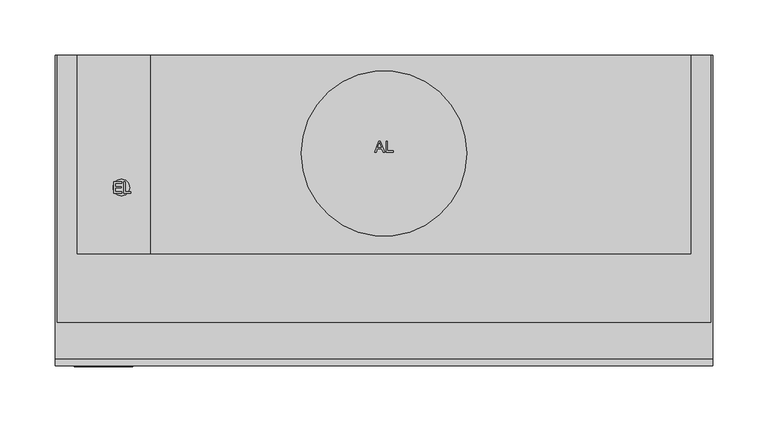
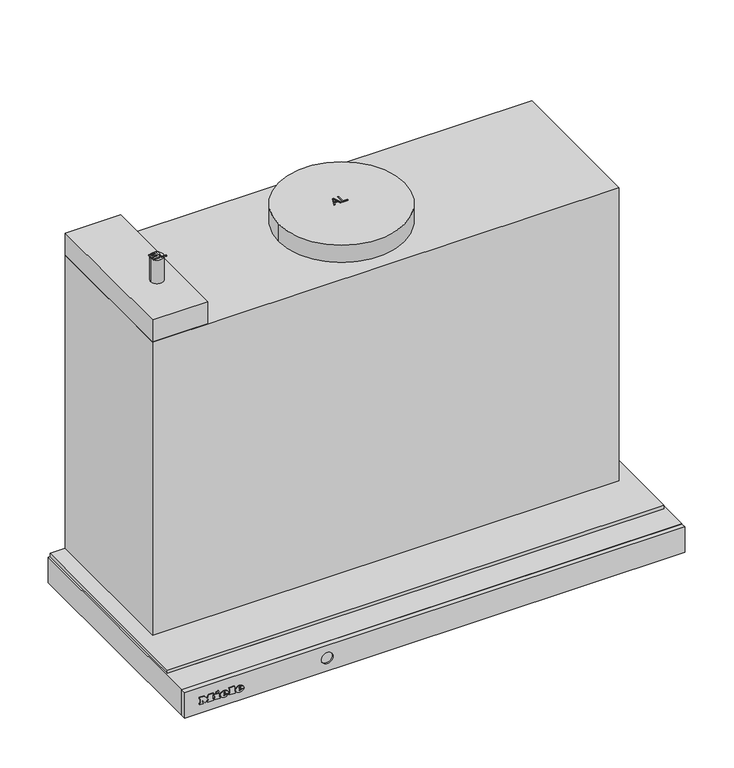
"""IFC4 building model written with IfcOpenShell, lengths in millimetres: proxy geometry, 11862200_D_DAS4630_OBSW : 28S4630B_D_11862200_DAS4630_OBSW."""

from ifc_helpers import new_model, si_unit, point, frame, frame_2d, origin, origin_with_axes, place, context, project, spatial, polyline, circle_curve, ellipse_curve, trimmed, segment, composite_curve, outline, extrude, faceted_brep, source, transform, mapped, element, save
from ifc_brep_helpers import plane_surface, cylinder_surface, revolved_surface, extruded_surface, advanced_brep


def specialty_equipment_42d7a28d(model_context):
    return source(origin(), model_context, "Body", "SolidModel", [
        advanced_brep(
        [(-233.4590019, -282.1878927, -18.7681017), (-233.4590019, -282.1878927, -17.8894017), (-227.6387019, -282.1878927, -17.8894017), (-237.7655019, -282.1878927, -17.8894017), (-235.3730019, -282.1878927, -20.8300017), (-227.7866019, -282.1878927, -18.7681017), (-230.4140019, -282.1878927, -18.7681017), (-232.4846019, -282.1878927, -19.7425017), (-233.4590019, -282.1878927, -16.7758017), (-233.4590019, -282.1878927, -15.8275017), (-231.9713019, -282.1878927, -15.8275017), (-231.9713019, -282.1878927, -16.7758017), (-233.4590019, -281.1878927, -18.7681017), (-232.4846019, -281.1878927, -19.7425017), (-230.4140019, -281.1878927, -18.7681017), (-227.7866019, -281.1878927, -18.7681017), (-235.3730019, -281.1878927, -20.8300017), (-237.7655019, -281.1878927, -17.8894017), (-227.6387019, -281.1878927, -17.8894017), (-233.4590019, -281.1878927, -17.8894017), (-233.4590019, -281.1878927, -16.7758017), (-231.9713019, -281.1878927, -16.7758017), (-231.9713019, -281.1878927, -15.8275017), (-233.4590019, -281.1878927, -15.8275017)],
        [
            (0, 1),
            (1, 2),
            (2, 3, ellipse_curve(frame((-232.7021019, -282.1878927, -17.8894017), z_axis=(0.0, -1.0, 0.0), x_axis=(-1.0, 0.0, 0.0)), 5.0634, 4.1847)),
            (3, 4, circle_curve(frame((-234.3985544, -282.1878927, -17.5936017), z_axis=(0.0, -1.0, 0.0), x_axis=(0.0, 0.0, -1.0)), 3.3799161)),
            (4, 5, circle_curve(frame((-232.8034638, -282.1878927, -15.2968017), z_axis=(0.0, -1.0, 0.0), x_axis=(0.0, 0.0, -1.0)), 6.1007236)),
            (5, 6),
            (6, 7, circle_curve(frame((-232.0593254, -282.1878927, -17.9590017), z_axis=(0.0, 1.0, 0.0), x_axis=(0.0, 0.0, -1.0)), 1.8335027)),
            (7, 0, circle_curve(frame((-232.4846019, -282.1878927, -18.7681017), z_axis=(0.0, 1.0, 0.0), x_axis=(0.0, 0.0, -1.0)), 0.9744)),
            (8, 9),
            (9, 10, circle_curve(frame((-232.7151519, -282.1878927, -15.8275017), z_axis=(0.0, 1.0, 0.0), x_axis=(0.0, 0.0, -1.0)), 0.74385)),
            (10, 11),
            (11, 8),
            (12, 13, circle_curve(frame((-232.4846019, -281.1878927, -18.7681017), z_axis=(0.0, -1.0, 0.0), x_axis=(0.0, 0.0, -1.0)), 0.9744)),
            (13, 14, circle_curve(frame((-232.0593254, -281.1878927, -17.9590017), z_axis=(0.0, -1.0, 0.0), x_axis=(0.0, 0.0, -1.0)), 1.8335027)),
            (14, 15),
            (15, 16, circle_curve(frame((-232.8034638, -281.1878927, -15.2968017), z_axis=(0.0, 1.0, 0.0), x_axis=(0.0, 0.0, -1.0)), 6.1007236)),
            (16, 17, circle_curve(frame((-234.3985544, -281.1878927, -17.5936017), z_axis=(0.0, 1.0, 0.0), x_axis=(0.0, 0.0, -1.0)), 3.3799161)),
            (17, 18, ellipse_curve(frame((-232.7021019, -281.1878927, -17.8894017), z_axis=(0.0, 1.0, 0.0), x_axis=(-1.0, 0.0, 0.0)), 5.0634, 4.1847)),
            (18, 19),
            (19, 12),
            (20, 21),
            (21, 22),
            (22, 23, circle_curve(frame((-232.7151519, -281.1878927, -15.8275017), z_axis=(0.0, -1.0, 0.0), x_axis=(0.0, 0.0, -1.0)), 0.74385)),
            (23, 20),
            (0, 12),
            (19, 1),
            (18, 2),
            (5, 15),
            (14, 6),
            (17, 3),
            (13, 7),
            (16, 4),
            (8, 20),
            (23, 9),
            (22, 10),
            (21, 11),
        ],
        [
            plane_surface(frame((-233.4590019, -282.1878927, -17.8894017), z_axis=(0.0, -1.0, 0.0), x_axis=(0.0, 0.0, 1.0))),
            plane_surface(frame((-233.4590019, -281.1878927, -17.8894017), z_axis=(0.0, 1.0, 0.0), x_axis=(0.0, 0.0, -1.0))),
            plane_surface(frame((-233.4590019, -282.1878927, -18.7681017), z_axis=(1.0, 0.0, 0.0), x_axis=(0.0, 1.0, 0.0))),
            plane_surface(frame((-233.4590019, -282.1878927, -17.8894017), z_axis=(0.0, 0.0, -1.0), x_axis=(0.0, 1.0, 0.0))),
            plane_surface(frame((-227.7866019, -282.1878927, -18.7681017), z_axis=(0.0, 0.0, 1.0), x_axis=(0.0, 1.0, 0.0))),
            extruded_surface(trimmed(ellipse_curve(frame((-232.7021019, -280.1878927, -17.8894017), z_axis=(0.0, -1.0, 0.0), x_axis=(-1.0, 0.0, 0.0)), 5.0634, 4.1847), [point((-227.6387019, -280.1878927, -17.8894017))], [point((-237.7655019, -280.1878927, -17.8894017))], True, "CARTESIAN"), (0.0, -1.0, 0.0), 1.0),
            revolved_surface(polyline([(-232.0593254, -281.1878927, -19.792504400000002), (-232.0593254, -282.1878927, -19.792504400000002)]), (-232.0593254, -281.1878927, -17.9590017), (0.0, 1.0, 0.0)),
            revolved_surface(polyline([(-232.4846019, -281.1878927, -19.7425017), (-232.4846019, -282.1878927, -19.7425017)]), (-232.4846019, -281.1878927, -18.7681017), (0.0, 1.0, 0.0)),
            cylinder_surface(frame((-234.3985544, -281.1878927, -17.5936017), z_axis=(0.0, -1.0, 0.0), x_axis=(0.0, 0.0, -1.0)), 3.3799161),
            cylinder_surface(frame((-232.8034638, -281.1878927, -15.2968017), z_axis=(0.0, -1.0, 0.0), x_axis=(0.0, 0.0, -1.0)), 6.1007236),
            plane_surface(frame((-233.4590019, -282.1878927, -16.7758017), z_axis=(1.0, 0.0, 0.0), x_axis=(0.0, 1.0, 0.0))),
            revolved_surface(polyline([(-232.7151519, -281.1878927, -16.571351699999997), (-232.7151519, -282.1878927, -16.571351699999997)]), (-232.7151519, -281.1878927, -15.8275017), (0.0, 1.0, 0.0)),
            plane_surface(frame((-231.9713019, -282.1878927, -15.8275017), z_axis=(-1.0, 0.0, 0.0), x_axis=(0.0, 1.0, 0.0))),
            plane_surface(frame((-231.9713019, -282.1878927, -16.7758017), z_axis=(0.0, 0.0, 1.0), x_axis=(0.0, 1.0, 0.0))),
        ],
        [
            (0, [[1, 2, 3, 4, 5, 6, 7, 8], [9, 10, 11, 12]]),
            (1, [[13, 14, 15, 16, 17, 18, 19, 20], [21, 22, 23, 24]]),
            (2, [[-1, 25, -20, 26]]),
            (3, [[-2, -26, -19, 27]]),
            (4, [[-6, 28, -15, 29]]),
            (5, [[-3, -27, -18, 30]]),
            (6, [[-7, -29, -14, 31]]),
            (7, [[-8, -31, -13, -25]]),
            (8, [[-4, -30, -17, 32]]),
            (9, [[-5, -32, -16, -28]]),
            (10, [[-9, 33, -24, 34]]),
            (11, [[-10, -34, -23, 35]]),
            (12, [[-11, -35, -22, 36]]),
            (13, [[-12, -36, -21, -33]]),
        ],
    ),
        advanced_brep(
        [(-251.6159019, -282.1878927, -18.7681017), (-251.6159019, -282.1878927, -17.8894017), (-245.7956019, -282.1878927, -17.8894017), (-255.9224019, -282.1878927, -17.8894017), (-253.5299019, -282.1878927, -20.8300017), (-245.9435019, -282.1878927, -18.7681017), (-248.5709019, -282.1878927, -18.7681017), (-250.6415019, -282.1878927, -19.7425017), (-251.6159019, -282.1878927, -16.7758017), (-251.6159019, -282.1878927, -15.8275017), (-250.1282019, -282.1878927, -15.8275017), (-250.1282019, -282.1878927, -16.7758017), (-251.6159019, -281.1878927, -18.7681017), (-250.6415019, -281.1878927, -19.7425017), (-248.5709019, -281.1878927, -18.7681017), (-245.9435019, -281.1878927, -18.7681017), (-253.5299019, -281.1878927, -20.8300017), (-255.9224019, -281.1878927, -17.8894017), (-245.7956019, -281.1878927, -17.8894017), (-251.6159019, -281.1878927, -17.8894017), (-251.6159019, -281.1878927, -16.7758017), (-250.1282019, -281.1878927, -16.7758017), (-250.1282019, -281.1878927, -15.8275017), (-251.6159019, -281.1878927, -15.8275017)],
        [
            (0, 1),
            (1, 2),
            (2, 3, ellipse_curve(frame((-250.8590019, -282.1878927, -17.8894017), z_axis=(0.0, -1.0, 0.0), x_axis=(-1.0, 0.0, 0.0)), 5.0634, 4.1847)),
            (3, 4, circle_curve(frame((-252.5554544, -282.1878927, -17.5936017), z_axis=(0.0, -1.0, 0.0), x_axis=(0.0, 0.0, -1.0)), 3.3799161)),
            (4, 5, circle_curve(frame((-250.9603638, -282.1878927, -15.2968017), z_axis=(0.0, -1.0, 0.0), x_axis=(0.0, 0.0, -1.0)), 6.1007236)),
            (5, 6),
            (6, 7, circle_curve(frame((-250.2162254, -282.1878927, -17.9590017), z_axis=(0.0, 1.0, 0.0), x_axis=(0.0, 0.0, -1.0)), 1.8335027)),
            (7, 0, circle_curve(frame((-250.6415019, -282.1878927, -18.7681017), z_axis=(0.0, 1.0, 0.0), x_axis=(0.0, 0.0, -1.0)), 0.9744)),
            (8, 9),
            (9, 10, circle_curve(frame((-250.8720519, -282.1878927, -15.8275017), z_axis=(0.0, 1.0, 0.0), x_axis=(0.0, 0.0, -1.0)), 0.74385)),
            (10, 11),
            (11, 8),
            (12, 13, circle_curve(frame((-250.6415019, -281.1878927, -18.7681017), z_axis=(0.0, -1.0, 0.0), x_axis=(0.0, 0.0, -1.0)), 0.9744)),
            (13, 14, circle_curve(frame((-250.2162254, -281.1878927, -17.9590017), z_axis=(0.0, -1.0, 0.0), x_axis=(0.0, 0.0, -1.0)), 1.8335027)),
            (14, 15),
            (15, 16, circle_curve(frame((-250.9603638, -281.1878927, -15.2968017), z_axis=(0.0, 1.0, 0.0), x_axis=(0.0, 0.0, -1.0)), 6.1007236)),
            (16, 17, circle_curve(frame((-252.5554544, -281.1878927, -17.5936017), z_axis=(0.0, 1.0, 0.0), x_axis=(0.0, 0.0, -1.0)), 3.3799161)),
            (17, 18, ellipse_curve(frame((-250.8590019, -281.1878927, -17.8894017), z_axis=(0.0, 1.0, 0.0), x_axis=(-1.0, 0.0, 0.0)), 5.0634, 4.1847)),
            (18, 19),
            (19, 12),
            (20, 21),
            (21, 22),
            (22, 23, circle_curve(frame((-250.8720519, -281.1878927, -15.8275017), z_axis=(0.0, -1.0, 0.0), x_axis=(0.0, 0.0, -1.0)), 0.74385)),
            (23, 20),
            (0, 12),
            (19, 1),
            (18, 2),
            (5, 15),
            (14, 6),
            (17, 3),
            (13, 7),
            (16, 4),
            (8, 20),
            (23, 9),
            (22, 10),
            (21, 11),
        ],
        [
            plane_surface(frame((-251.6159019, -282.1878927, -17.8894017), z_axis=(0.0, -1.0, 0.0), x_axis=(0.0, 0.0, 1.0))),
            plane_surface(frame((-251.6159019, -281.1878927, -17.8894017), z_axis=(0.0, 1.0, 0.0), x_axis=(0.0, 0.0, -1.0))),
            plane_surface(frame((-251.6159019, -282.1878927, -18.7681017), z_axis=(1.0, 0.0, 0.0), x_axis=(0.0, 1.0, 0.0))),
            plane_surface(frame((-251.6159019, -282.1878927, -17.8894017), z_axis=(0.0, 0.0, -1.0), x_axis=(0.0, 1.0, 0.0))),
            plane_surface(frame((-245.9435019, -282.1878927, -18.7681017), z_axis=(0.0, 0.0, 1.0), x_axis=(0.0, 1.0, 0.0))),
            extruded_surface(trimmed(ellipse_curve(frame((-250.8590019, -280.1878927, -17.8894017), z_axis=(0.0, -1.0, 0.0), x_axis=(-1.0, 0.0, 0.0)), 5.0634, 4.1847), [point((-245.7956019, -280.1878927, -17.8894017))], [point((-255.9224019, -280.1878927, -17.8894017))], True, "CARTESIAN"), (0.0, -1.0, 0.0), 1.0),
            revolved_surface(polyline([(-250.2162254, -281.1878927, -19.792504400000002), (-250.2162254, -282.1878927, -19.792504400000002)]), (-250.2162254, -281.1878927, -17.9590017), (0.0, 1.0, 0.0)),
            revolved_surface(polyline([(-250.6415019, -281.1878927, -19.7425017), (-250.6415019, -282.1878927, -19.7425017)]), (-250.6415019, -281.1878927, -18.7681017), (0.0, 1.0, 0.0)),
            cylinder_surface(frame((-252.5554544, -281.1878927, -17.5936017), z_axis=(0.0, -1.0, 0.0), x_axis=(0.0, 0.0, -1.0)), 3.3799161),
            cylinder_surface(frame((-250.9603638, -281.1878927, -15.2968017), z_axis=(0.0, -1.0, 0.0), x_axis=(0.0, 0.0, -1.0)), 6.1007236),
            plane_surface(frame((-251.6159019, -282.1878927, -16.7758017), z_axis=(1.0, 0.0, 0.0), x_axis=(0.0, 1.0, 0.0))),
            revolved_surface(polyline([(-250.8720519, -281.1878927, -16.571351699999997), (-250.8720519, -282.1878927, -16.571351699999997)]), (-250.8720519, -281.1878927, -15.8275017), (0.0, 1.0, 0.0)),
            plane_surface(frame((-250.1282019, -282.1878927, -15.8275017), z_axis=(-1.0, 0.0, 0.0), x_axis=(0.0, 1.0, 0.0))),
            plane_surface(frame((-250.1282019, -282.1878927, -16.7758017), z_axis=(0.0, 0.0, 1.0), x_axis=(0.0, 1.0, 0.0))),
        ],
        [
            (0, [[1, 2, 3, 4, 5, 6, 7, 8], [9, 10, 11, 12]]),
            (1, [[13, 14, 15, 16, 17, 18, 19, 20], [21, 22, 23, 24]]),
            (2, [[-1, 25, -20, 26]]),
            (3, [[-2, -26, -19, 27]]),
            (4, [[-6, 28, -15, 29]]),
            (5, [[-3, -27, -18, 30]]),
            (6, [[-7, -29, -14, 31]]),
            (7, [[-8, -31, -13, -25]]),
            (8, [[-4, -30, -17, 32]]),
            (9, [[-5, -32, -16, -28]]),
            (10, [[-9, 33, -24, 34]]),
            (11, [[-10, -34, -23, 35]]),
            (12, [[-11, -35, -22, 36]]),
            (13, [[-12, -36, -21, -33]]),
        ],
    ),
        extrude(outline(polyline([(-12.6433017, -261.1250019), (-14.0527017, -260.4638019), (-12.6781017, -257.5145019), (-11.2687017, -258.1670019), (-12.6433017, -261.1250019)])), frame((0.0, -282.1878927, 0.0), z_axis=(0.0, 1.0, 0.0), x_axis=(0.0, 0.0, 1.0)), (0.0, 0.0, 1.0), 1.0),
        extrude(outline(polyline([(-14.2441017, -263.2739019), (-15.8014017, -263.2739019), (-15.8014017, -262.2386019), (-19.3684017, -262.2386019), (-19.3684017, -263.2739019), (-20.8300017, -263.2739019), (-20.8300017, -256.4096019), (-19.3684017, -256.4096019), (-19.3684017, -257.4188019), (-14.2441017, -257.4188019), (-14.2441017, -263.2739019)])), frame((0.0, -282.1878927, 0.0), z_axis=(0.0, 1.0, 0.0), x_axis=(0.0, 0.0, 1.0)), (0.0, 0.0, 1.0), 1.0),
        extrude(outline(polyline([(-13.5481017, -245.3084019), (-13.5481017, -244.2644019), (-19.3684017, -244.2644019), (-19.3684017, -245.3084019), (-20.8300017, -245.3084019), (-20.8300017, -238.2527019), (-19.3684017, -238.2527019), (-19.3684017, -239.3228019), (-12.1300017, -239.3228019), (-12.1300017, -245.3084019), (-13.5481017, -245.3084019)])), frame((0.0, -282.1878927, 0.0), z_axis=(0.0, 1.0, 0.0), x_axis=(0.0, 0.0, 1.0)), (0.0, 0.0, 1.0), 1.0),
        extrude(outline(polyline([(-13.5481017, -280.6130019), (-13.5481017, -279.5603019), (-19.3684017, -279.5603019), (-19.3684017, -280.6130019), (-20.8300017, -280.6130019), (-20.8300017, -276.7850019), (-19.3684017, -276.7850019), (-19.3684017, -277.8290019), (-15.6719769, -277.8290019), (-20.8300017, -273.9401019), (-15.5772794, -270.0338019), (-19.3684017, -270.0338019), (-19.3684017, -271.1039019), (-20.8300017, -271.1039019), (-20.8300017, -264.1613019), (-19.3684017, -264.1613019), (-19.3684017, -265.2662019), (-13.5481017, -265.2662019), (-13.5481017, -264.1613019), (-12.1300017, -264.1613019), (-12.1300017, -269.4596019), (-15.3925017, -272.0000019), (-12.1300017, -274.5491019), (-12.1300017, -280.6130019), (-13.5481017, -280.6130019)])), frame((0.0, -282.1878927, 0.0), z_axis=(0.0, 1.0, 0.0), x_axis=(0.0, 0.0, 1.0)), (0.0, 0.0, 1.0), 1.0),
        advanced_brep(
        [(-298.0, -281.1878927, 0.0), (-298.0, -281.1878927, -32.0), (298.0, -281.1878927, -32.0), (298.0, -281.1878927, 0.0), (-120.989338, -281.1878927, -16.0), (-135.010662, -281.1878927, -16.0), (-298.0, -275.4770358, 0.0), (298.0, -275.4770358, 0.0), (298.0, -275.4770358, -32.0), (-298.0, -275.4770358, -32.0), (-135.010662, -279.3472208, -16.0), (-120.989338, -279.3472208, -16.0)],
        [
            (0, 1),
            (1, 2),
            (2, 3),
            (3, 0),
            (4, 5, circle_curve(frame((-128.0, -281.1878927, -16.0), z_axis=(0.0, 1.0, 0.0), x_axis=(1.0, 0.0, 0.0)), 7.010662)),
            (5, 4, circle_curve(frame((-128.0, -281.1878927, -16.0), z_axis=(0.0, 1.0, 0.0), x_axis=(1.0, 0.0, 0.0)), 7.010662)),
            (6, 7),
            (7, 8),
            (8, 9),
            (9, 6),
            (3, 7),
            (6, 0),
            (2, 8),
            (1, 9),
            (10, 11, circle_curve(frame((-128.0, -279.3472208, -16.0), z_axis=(0.0, -1.0, 0.0), x_axis=(1.0, 0.0, 0.0)), 7.010662)),
            (11, 10, circle_curve(frame((-128.0, -279.3472208, -16.0), z_axis=(0.0, -1.0, 0.0), x_axis=(1.0, 0.0, 0.0)), 7.010662)),
            (10, 5),
            (4, 11),
        ],
        [
            plane_surface(frame((-298.0, -281.1878927, 0.0), z_axis=(0.0, -1.0, 0.0), x_axis=(0.0, 0.0, -1.0))),
            plane_surface(frame((-298.0, -275.4770358, 0.0), z_axis=(0.0, 1.0, 0.0), x_axis=(0.0, 0.0, 1.0))),
            plane_surface(frame((298.0, -281.1878927, 0.0), z_axis=(0.0, 0.0, 1.0), x_axis=(0.0, 1.0, 0.0))),
            plane_surface(frame((298.0, -281.1878927, -32.0), z_axis=(1.0, 0.0, 0.0), x_axis=(0.0, 1.0, 0.0))),
            plane_surface(frame((-298.0, -281.1878927, -32.0), z_axis=(0.0, 0.0, -1.0), x_axis=(0.0, 1.0, 0.0))),
            plane_surface(frame((-298.0, -281.1878927, 0.0), z_axis=(-1.0, 0.0, 0.0), x_axis=(0.0, 1.0, 0.0))),
            plane_surface(frame((-120.989338, -279.3472208, -16.0), z_axis=(0.0, -1.0, 0.0), x_axis=(0.0, 0.0, -1.0))),
            revolved_surface(polyline([(-120.989338, -281.1878927, -16.0), (-120.989338, -279.3472208, -16.0)]), (-128.0, -279.3472208, -16.0), (0.0, -1.0, 0.0)),
        ],
        [
            (0, [[1, 2, 3, 4], [5, 6]]),
            (1, [[7, 8, 9, 10]]),
            (2, [[-4, 11, -7, 12]]),
            (3, [[-3, 13, -8, -11]]),
            (4, [[-2, 14, -9, -13]]),
            (5, [[-1, -12, -10, -14]]),
            (6, [[15, 16]]),
            (7, [[-15, 17, -5, 18]]),
            (7, [[-16, -18, -6, -17]]),
        ],
    ),
        extrude(outline(polyline([(278.0, -180.0), (-278.0, -180.0), (-278.0, 0.0), (278.0, 0.0), (278.0, -180.0)])), frame((0.0, 0.0, 4.0), z_axis=(0.0, 0.0, 1.0), x_axis=(1.0, 0.0, 0.0)), (0.0, 0.0, 1.0), 369.0),
        extrude(outline(composite_curve([segment(trimmed(circle_curve(frame_2d((0.0, -89.0)), 75.0), [point((-75.0, -89.0))], [point((75.0, -89.0))], False, "CARTESIAN"), True, "CONTINUOUS"), segment(trimmed(circle_curve(frame_2d((0.0, -89.0)), 75.0), [point((75.0, -89.0))], [point((-75.0, -89.0))], False, "CARTESIAN"), True, "CONTINUOUS")], self_intersect=False)), frame((0.0, 0.0, 373.0), z_axis=(0.0, 0.0, 1.0), x_axis=(1.0, 0.0, 0.0)), (0.0, 0.0, 1.0), 22.0),
        extrude(outline(polyline([(-278.0, -180.0), (-278.0, 0.0), (-212.0, 0.0), (-212.0, -180.0), (-278.0, -180.0)])), frame((0.0, 0.0, 373.0), z_axis=(0.0, 0.0, 1.0), x_axis=(1.0, 0.0, 0.0)), (0.0, 0.0, 1.0), 28.0),
        extrude(outline(polyline([(-8.5446725, -87.975609), (-4.5347587, -77.929978), (-3.4654484, -77.929978), (0.5420128, -87.975609), (-0.7848149, -87.975609), (-1.9326067, -84.8363493), (-6.0725055, -84.8363493), (-7.2202973, -87.975609), (-8.5446725, -87.975609)]), holes=[polyline([(-5.6114267, -83.5806455), (-2.391233, -83.5806455), (-3.2986752, -81.110931), (-4.0025561, -79.1856819), (-4.6279555, -80.8951069), (-5.6114267, -83.5806455)])]), frame((0.0, 0.0, 395.0), z_axis=(0.0, 0.0, 1.0), x_axis=(1.0, 0.0, 0.0)), (0.0, 0.0, 1.0), 1.0),
        extrude(outline(polyline([(1.8835558, -87.975609), (1.8835558, -77.929978), (3.1392597, -77.929978), (3.1392597, -86.7199052), (8.1620752, -86.7199052), (8.1620752, -87.975609), (1.8835558, -87.975609)])), frame((0.0, 0.0, 395.0), z_axis=(0.0, 0.0, 1.0), x_axis=(1.0, 0.0, 0.0)), (0.0, 0.0, 1.0), 1.0),
        extrude(outline(polyline([(296.0, 0.0), (296.0, -242.0), (-296.0, -242.0), (-296.0, 0.0), (296.0, 0.0)])), origin_with_axes(), (0.0, 0.0, 1.0), 4.0),
        extrude(outline(polyline([(120.0, -19.25), (120.0, -31.75), (-120.0, -31.75), (-120.0, -19.25), (120.0, -19.25)])), frame((0.0, 0.0, -23.0), z_axis=(0.0, 0.0, 1.0), x_axis=(1.0, 0.0, 0.0)), (0.0, 0.0, 1.0), 1.785426),
        extrude(outline(polyline([(181.0813184, -268.0), (181.0813184, -246.0), (249.0, -246.0), (249.0, -268.0), (181.0813184, -268.0)])), frame((0.0, 0.0, -33.3019181), z_axis=(0.0, 0.0, 1.0), x_axis=(1.0, 0.0, 0.0)), (0.0, 0.0, 1.0), 1.3019181),
        extrude(outline(polyline([(-249.0, -268.0), (-249.0, -246.0), (-181.0, -246.0), (-181.0, -268.0), (-249.0, -268.0)])), frame((0.0, 0.0, -33.3019181), z_axis=(0.0, 0.0, 1.0), x_axis=(1.0, 0.0, 0.0)), (0.0, 0.0, 1.0), 1.3019181),
        extrude(outline(composite_curve([segment(trimmed(circle_curve(frame_2d((-238.0, -120.0)), 7.5), [point((-230.5, -120.0))], [point((-245.5, -120.0))], False, "CARTESIAN"), True, "CONTINUOUS"), segment(trimmed(circle_curve(frame_2d((-238.0, -120.0)), 7.5), [point((-245.5, -120.0))], [point((-230.5, -120.0))], False, "CARTESIAN"), True, "CONTINUOUS")], self_intersect=False)), frame((0.0, 0.0, 401.0), z_axis=(0.0, 0.0, 1.0), x_axis=(1.0, 0.0, 0.0)), (0.0, 0.0, 1.0), 30.0),
        extrude(outline(polyline([(-235.640443, -124.9184735), (-235.640443, -114.8728425), (-234.3847391, -114.8728425), (-234.3847391, -123.6627696), (-229.3619236, -123.6627696), (-229.3619236, -124.9184735), (-235.640443, -124.9184735)])), frame((0.0, 0.0, 431.0), z_axis=(0.0, 0.0, 1.0), x_axis=(1.0, 0.0, 0.0)), (0.0, 0.0, 1.0), 1.0),
        extrude(outline(polyline([(-244.9012591, -124.9184735), (-244.9012591, -114.8728425), (-237.6809618, -114.8728425), (-237.6809618, -116.1285464), (-243.6455552, -116.1285464), (-243.6455552, -119.1108431), (-237.9948878, -119.1108431), (-237.9948878, -120.366547), (-243.6455552, -120.366547), (-243.6455552, -123.6627696), (-237.5239988, -123.6627696), (-237.5239988, -124.9184735), (-244.9012591, -124.9184735)])), frame((0.0, 0.0, 431.0), z_axis=(0.0, 0.0, 1.0), x_axis=(1.0, 0.0, 0.0)), (0.0, 0.0, 1.0), 1.0),
        extrude(outline(polyline([(-298.0, 0.0), (-263.0, 0.0), (-263.0, -242.0), (263.0, -242.0), (263.0, 0.0), (298.0, 0.0), (298.0, -275.0), (-298.0, -275.0), (-298.0, 0.0)])), frame((0.0, 0.0, -32.0), z_axis=(0.0, 0.0, 1.0), x_axis=(1.0, 0.0, 0.0)), (0.0, 0.0, 1.0), 32.0),
        faceted_brep([(-126.0, -39.0, -24.0), (-126.0, -39.0, 0.0), (126.0, -39.0, 0.0), (126.0, -39.0, -24.0), (-126.0, -12.0, -24.0), (-126.0, -12.0, 0.0), (126.0, -12.0, -24.0), (126.0, -12.0, 0.0), (-263.0, -242.0, 0.0), (-263.0, 0.0, 0.0), (-263.0, 0.0, -24.0), (-263.0, -52.0, -24.0), (-263.0, -52.0, -25.0), (-263.0, -242.0, -25.0), (263.0, -52.0, -25.0), (263.0, -242.0, -25.0), (263.0, -52.0, -24.0), (263.0, 0.0, -24.0), (263.0, 0.0, 0.0), (263.0, -242.0, 0.0)], [[[0, 1, 2, 3]], [[4, 5, 1, 0]], [[6, 7, 5, 4]], [[8, 9, 10, 11, 12, 13]], [[13, 12, 14, 15]], [[16, 11, 10, 17], [6, 4, 0, 3]], [[11, 16, 14, 12]], [[18, 9, 8, 19], [5, 7, 2, 1]], [[9, 18, 17, 10]], [[19, 8, 13, 15]], [[18, 19, 15, 14, 16, 17]], [[7, 6, 3, 2]]]),
        extrude(outline(polyline([(126.0, -12.0), (126.0, -39.0), (-126.0, -39.0), (-126.0, -12.0), (126.0, -12.0)]), holes=[polyline([(120.0, -19.25), (-120.0, -19.25), (-120.0, -31.75), (120.0, -31.75), (120.0, -19.25)])]), frame((0.0, 0.0, -21.214574), z_axis=(0.0, 0.0, 1.0), x_axis=(1.0, 0.0, 0.0)), (0.0, 0.0, 1.0), 21.214574),
    ])


if __name__ == "__main__":
    model = new_model("IFC4")
    model_context = context("Model", 3, world=origin())
    ifc_project = project(units=[si_unit("LENGTHUNIT", "METRE", prefix="MILLI")], contexts=[model_context])
    site = spatial("IfcSite", under=ifc_project)
    building = spatial("IfcBuilding", under=site)
    placement = place(None, origin())
    specialty_equipment_shape = specialty_equipment_42d7a28d(model_context)
    element("IfcBuildingElementProxy", 1, Name="11862200_D_DAS4630_OBSW : 28S4630B_D_11862200_DAS4630_OBSW", ObjectType="11862200_D_DAS4630_OBSW : 28S4630B_D_11862200_DAS4630_OBSW", at=placement, inside=building, context=model_context, shape_type="MappedRepresentation", body=[
        mapped(specialty_equipment_shape, transform((0.0, 0.0, 0.0), x_axis=(1.0, 0.0, 0.0), y_axis=(0.0, 1.0, 0.0), z_axis=(0.0, 0.0, 1.0))),
    ])
    save(model, "model.ifc")
